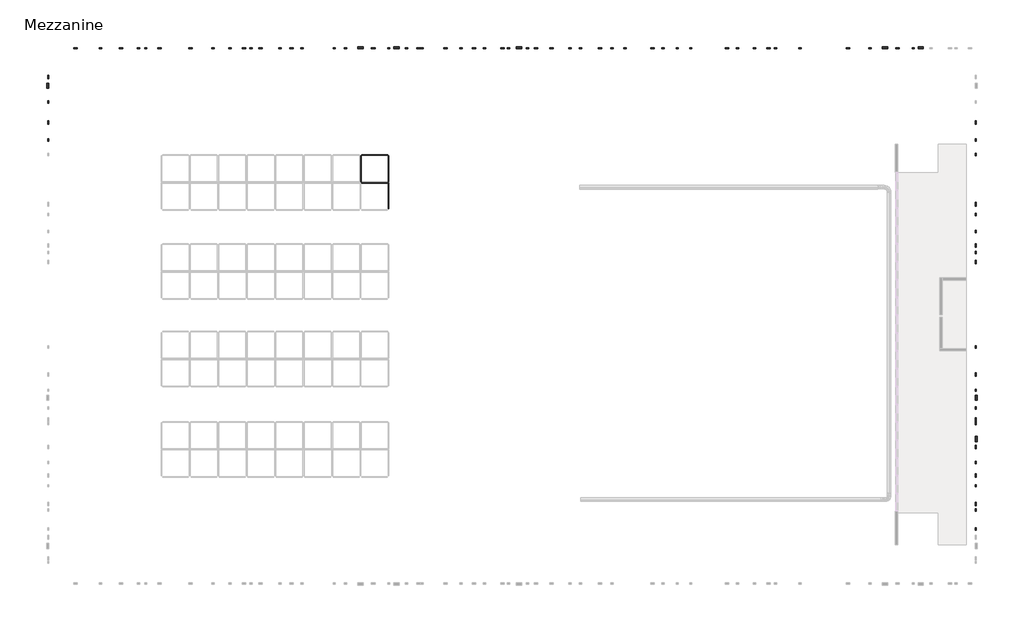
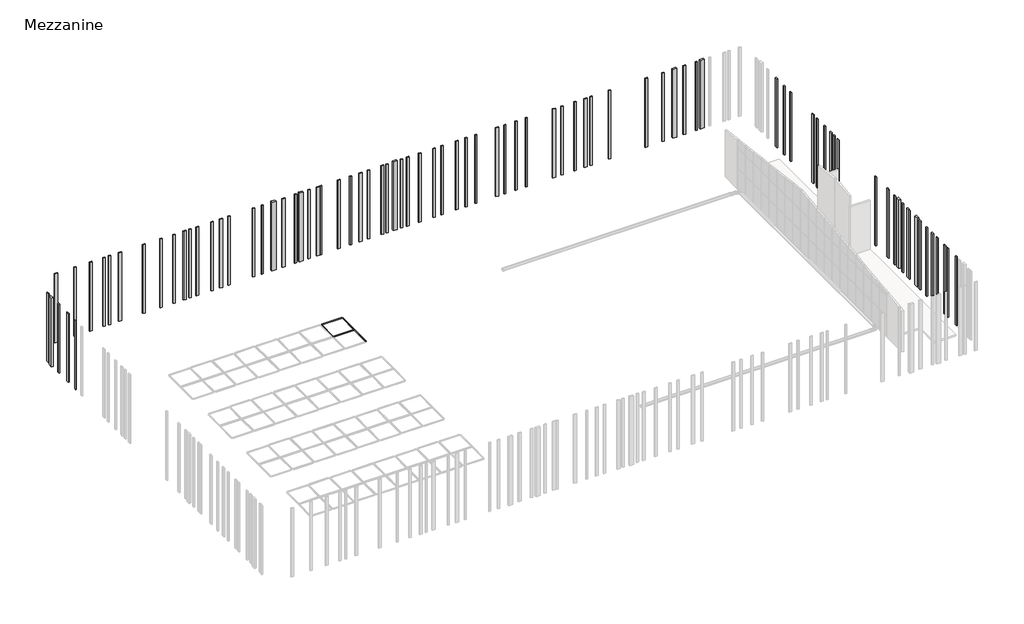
# One storey, part 6 of 7: 84 columns, 5 beams.
"""IFC4 building model written with IfcOpenShell, lengths in millimetres."""

from ifc_helpers import new_model, si_unit, frame, origin, place, context, project, spatial, polyline, outline, extrude, transform, mapped, element, save
from components import timber_gauged_nz_100_x_50_718b6390, timber_gauged_nz_100_x_50_7774ab14, timber_gauged_nz_100_x_50_7b7bee40, timber_gauged_nz_100_x_50_6be5a70a, columns_rectangular_200x200_white_30d1f7a3, columns_rectangular_300x300_8a979122, columns_rectangular_450x450mm_b98eb1ea

model = new_model("IFC4")

# Units and contexts
model_context = context("Model", 3, world=origin())
ifc_project = project(units=[si_unit("LENGTHUNIT", "METRE", prefix="MILLI")], contexts=[model_context])

# Site, building, storey
site = spatial("IfcSite", under=ifc_project)
building = spatial("IfcBuilding", under=site)
storey = spatial("IfcBuildingStorey", under=building, Name="Mezzanine", Elevation=5800.0)

# Beams
placement = place(None, origin())
timber_gauged_nz_100_x_50_shape = timber_gauged_nz_100_x_50_718b6390(model_context)
element("IfcBeam", 1, ObjectType="Timber Gauged (NZ) : 100 x 50", at=placement, inside=storey, context=model_context, shape_type="MappedRepresentation", body=[
    mapped(timber_gauged_nz_100_x_50_shape, transform((-62791.8056755, -2682.1175809, 4853.0), x_axis=(-1.0, 0.0, 0.0), y_axis=(0.0, -1.0, 0.0), z_axis=(0.0, 0.0, 1.0))),
])
timber_gauged_nz_100_x_50_2_shape = timber_gauged_nz_100_x_50_7774ab14(model_context)
element("IfcBeam", 2, ObjectType="Timber Gauged (NZ) : 100 x 50", at=placement, inside=storey, context=model_context, shape_type="MappedRepresentation", body=[
    mapped(timber_gauged_nz_100_x_50_2_shape, transform((-62804.3056755, -329.1175809, 4853.0), x_axis=(-1.0, 0.0, 0.0), y_axis=(0.0, -1.0, 0.0), z_axis=(0.0, 0.0, 1.0))),
])
timber_gauged_nz_100_x_50_3_shape = timber_gauged_nz_100_x_50_7b7bee40(model_context)
element("IfcBeam", 3, ObjectType="Timber Gauged (NZ) : 100 x 50", at=placement, inside=storey, context=model_context, shape_type="MappedRepresentation", body=[
    mapped(timber_gauged_nz_100_x_50_3_shape, transform((-61623.1556755, -1449.1175809, 4853.0), x_axis=(0.0, 1.0, 0.0), y_axis=(-1.0, 0.0, 0.0), z_axis=(0.0, 0.0, 1.0))),
])
timber_gauged_nz_100_x_50_4_shape = timber_gauged_nz_100_x_50_6be5a70a(model_context)
element("IfcBeam", 4, ObjectType="Timber Gauged (NZ) : 100 x 50", at=placement, inside=storey, context=model_context, shape_type="MappedRepresentation", body=[
    mapped(timber_gauged_nz_100_x_50_4_shape, transform((-61634.4556755, -3764.7011548, 4853.0), x_axis=(0.0, -1.0, 0.0), y_axis=(1.0, 0.0, 0.0), z_axis=(0.0, 0.0, 1.0))),
])
element("IfcBeam", 5, ObjectType="Timber Gauged (NZ) : 100 x 50", at=placement, inside=storey, context=model_context, shape_type="MappedRepresentation", body=[
    mapped(timber_gauged_nz_100_x_50_4_shape, transform((-63976.1556755, -1529.3175809, 4853.0), x_axis=(0.0, 1.0, 0.0), y_axis=(-1.0, 0.0, 0.0), z_axis=(0.0, 0.0, 1.0))),
])

# Columns
element("IfcColumn", 6, ObjectType="Columns_Rectangular : 200x200", at=placement, inside=storey, context=model_context, shape_type="SweptSolid", body=[
    extrude(outline(polyline([(-90259.8408447, 1031.5800404), (-90259.8408447, 831.5800404), (-90359.8408447, 831.5800404), (-90359.8408447, 1031.5800404), (-90259.8408447, 1031.5800404)])), frame((0.0, 0.0, 5800.0), z_axis=(0.0, 0.0, 1.0), x_axis=(1.0, 0.0, 0.0)), (0.0, 0.0, 1.0), 8000.0),
])
element("IfcColumn", 7, ObjectType="Columns_Rectangular : 200x200", at=placement, inside=storey, context=model_context, shape_type="SweptSolid", body=[
    extrude(outline(polyline([(-90259.8408447, 4231.5800404), (-90259.8408447, 4031.5800404), (-90359.8408447, 4031.5800404), (-90359.8408447, 4231.5800404), (-90259.8408447, 4231.5800404)])), frame((0.0, 0.0, 5800.0), z_axis=(0.0, 0.0, 1.0), x_axis=(1.0, 0.0, 0.0)), (0.0, 0.0, 1.0), 8000.0),
])
element("IfcColumn", 8, ObjectType="Columns_Rectangular : 200x200", at=placement, inside=storey, context=model_context, shape_type="SweptSolid", body=[
    extrude(outline(polyline([(-12200.7705062, -20068.4199596), (-12100.7705062, -20068.4199596), (-12100.7705062, -20268.4199596), (-12200.7705062, -20268.4199596), (-12200.7705062, -20068.4199596)])), frame((0.0, 0.0, 5800.0), z_axis=(0.0, 0.0, 1.0), x_axis=(1.0, 0.0, 0.0)), (0.0, 0.0, 1.0), 8000.0),
])
element("IfcColumn", 9, ObjectType="Columns_Rectangular : 200x200", at=placement, inside=storey, context=model_context, shape_type="SweptSolid", body=[
    extrude(outline(polyline([(-12200.7705062, -21568.4199596), (-12100.7705062, -21568.4199596), (-12100.7705062, -21768.4199596), (-12200.7705062, -21768.4199596), (-12200.7705062, -21568.4199596)])), frame((0.0, 0.0, 5800.0), z_axis=(0.0, 0.0, 1.0), x_axis=(1.0, 0.0, 0.0)), (0.0, 0.0, 1.0), 8000.0),
])
element("IfcColumn", 10, ObjectType="Columns_Rectangular : 200x200", at=placement, inside=storey, context=model_context, shape_type="SweptSolid", body=[
    extrude(outline(polyline([(-12200.7705062, -22868.4199596), (-12100.7705062, -22868.4199596), (-12100.7705062, -23068.4199596), (-12200.7705062, -23068.4199596), (-12200.7705062, -22868.4199596)])), frame((0.0, 0.0, 5800.0), z_axis=(0.0, 0.0, 1.0), x_axis=(1.0, 0.0, 0.0)), (0.0, 0.0, 1.0), 8000.0),
])
element("IfcColumn", 11, ObjectType="Columns_Rectangular : 200x200", at=placement, inside=storey, context=model_context, shape_type="SweptSolid", body=[
    extrude(outline(polyline([(-12200.7705062, -26168.4199596), (-12100.7705062, -26168.4199596), (-12100.7705062, -26368.4199596), (-12200.7705062, -26368.4199596), (-12200.7705062, -26168.4199596)])), frame((0.0, 0.0, 5800.0), z_axis=(0.0, 0.0, 1.0), x_axis=(1.0, 0.0, 0.0)), (0.0, 0.0, 1.0), 8000.0),
])
element("IfcColumn", 12, ObjectType="Columns_Rectangular : 200x200", at=placement, inside=storey, context=model_context, shape_type="SweptSolid", body=[
    extrude(outline(polyline([(-12200.7705062, -30168.4199596), (-12100.7705062, -30168.4199596), (-12100.7705062, -30368.4199596), (-12200.7705062, -30368.4199596), (-12200.7705062, -30168.4199596)])), frame((0.0, 0.0, 5800.0), z_axis=(0.0, 0.0, 1.0), x_axis=(1.0, 0.0, 0.0)), (0.0, 0.0, 1.0), 8000.0),
])
element("IfcColumn", 13, ObjectType="Columns_Rectangular : 200x200", at=placement, inside=storey, context=model_context, shape_type="SweptSolid", body=[
    extrude(outline(polyline([(-12200.7705062, -31768.4199596), (-12100.7705062, -31768.4199596), (-12100.7705062, -31968.4199596), (-12200.7705062, -31968.4199596), (-12200.7705062, -31768.4199596)])), frame((0.0, 0.0, 5800.0), z_axis=(0.0, 0.0, 1.0), x_axis=(1.0, 0.0, 0.0)), (0.0, 0.0, 1.0), 8000.0),
])
element("IfcColumn", 14, ObjectType="Columns_Rectangular : 200x200", at=placement, inside=storey, context=model_context, shape_type="SweptSolid", body=[
    extrude(outline(polyline([(-12200.7705062, -8468.4199596), (-12100.7705062, -8468.4199596), (-12100.7705062, -8668.4199596), (-12200.7705062, -8668.4199596), (-12200.7705062, -8468.4199596)])), frame((0.0, 0.0, 5800.0), z_axis=(0.0, 0.0, 1.0), x_axis=(1.0, 0.0, 0.0)), (0.0, 0.0, 1.0), 8000.0),
])
element("IfcColumn", 15, ObjectType="Columns_Rectangular : 200x200", at=placement, inside=storey, context=model_context, shape_type="SweptSolid", body=[
    extrude(outline(polyline([(-12200.7705062, -5268.4199596), (-12100.7705062, -5268.4199596), (-12100.7705062, -5468.4199596), (-12200.7705062, -5468.4199596), (-12200.7705062, -5268.4199596)])), frame((0.0, 0.0, 5800.0), z_axis=(0.0, 0.0, 1.0), x_axis=(1.0, 0.0, 0.0)), (0.0, 0.0, 1.0), 8000.0),
])
element("IfcColumn", 16, ObjectType="Columns_Rectangular : 200x200", at=placement, inside=storey, context=model_context, shape_type="SweptSolid", body=[
    extrude(outline(polyline([(-12200.7705062, 1031.5800404), (-12100.7705062, 1031.5800404), (-12100.7705062, 831.5800404), (-12200.7705062, 831.5800404), (-12200.7705062, 1031.5800404)])), frame((0.0, 0.0, 5800.0), z_axis=(0.0, 0.0, 1.0), x_axis=(1.0, 0.0, 0.0)), (0.0, 0.0, 1.0), 8000.0),
])
element("IfcColumn", 17, ObjectType="Columns_Rectangular : 200x200", at=placement, inside=storey, context=model_context, shape_type="SweptSolid", body=[
    extrude(outline(polyline([(-61716.5322209, 8594.0823011), (-61716.5322209, 8694.0823011), (-61516.5322209, 8694.0823011), (-61516.5322209, 8594.0823011), (-61716.5322209, 8594.0823011)])), frame((0.0, 0.0, 5800.0), z_axis=(0.0, 0.0, 1.0), x_axis=(1.0, 0.0, 0.0)), (0.0, 0.0, 1.0), 8000.0),
])
element("IfcColumn", 18, ObjectType="Columns_Rectangular : 200x200", at=placement, inside=storey, context=model_context, shape_type="SweptSolid", body=[
    extrude(outline(polyline([(-60216.5322209, 8594.0823011), (-60216.5322209, 8694.0823011), (-60016.5322209, 8694.0823011), (-60016.5322209, 8594.0823011), (-60216.5322209, 8594.0823011)])), frame((0.0, 0.0, 5800.0), z_axis=(0.0, 0.0, 1.0), x_axis=(1.0, 0.0, 0.0)), (0.0, 0.0, 1.0), 8000.0),
])
element("IfcColumn", 19, ObjectType="Columns_Rectangular : 200x200", at=placement, inside=storey, context=model_context, shape_type="SweptSolid", body=[
    extrude(outline(polyline([(-58916.5322209, 8594.0823011), (-58916.5322209, 8694.0823011), (-58716.5322209, 8694.0823011), (-58716.5322209, 8594.0823011), (-58916.5322209, 8594.0823011)])), frame((0.0, 0.0, 5800.0), z_axis=(0.0, 0.0, 1.0), x_axis=(1.0, 0.0, 0.0)), (0.0, 0.0, 1.0), 8000.0),
])
element("IfcColumn", 20, ObjectType="Columns_Rectangular : 200x200", at=placement, inside=storey, context=model_context, shape_type="SweptSolid", body=[
    extrude(outline(polyline([(-55616.5322209, 8594.0823011), (-55616.5322209, 8694.0823011), (-55416.5322209, 8694.0823011), (-55416.5322209, 8594.0823011), (-55616.5322209, 8594.0823011)])), frame((0.0, 0.0, 5800.0), z_axis=(0.0, 0.0, 1.0), x_axis=(1.0, 0.0, 0.0)), (0.0, 0.0, 1.0), 8000.0),
])
element("IfcColumn", 21, ObjectType="Columns_Rectangular : 200x200", at=placement, inside=storey, context=model_context, shape_type="SweptSolid", body=[
    extrude(outline(polyline([(-51616.5322209, 8594.0823011), (-51616.5322209, 8694.0823011), (-51416.5322209, 8694.0823011), (-51416.5322209, 8594.0823011), (-51616.5322209, 8594.0823011)])), frame((0.0, 0.0, 5800.0), z_axis=(0.0, 0.0, 1.0), x_axis=(1.0, 0.0, 0.0)), (0.0, 0.0, 1.0), 8000.0),
])
element("IfcColumn", 22, ObjectType="Columns_Rectangular : 200x200", at=placement, inside=storey, context=model_context, shape_type="SweptSolid", body=[
    extrude(outline(polyline([(-50016.5322209, 8594.0823011), (-50016.5322209, 8694.0823011), (-49816.5322209, 8694.0823011), (-49816.5322209, 8594.0823011), (-50016.5322209, 8594.0823011)])), frame((0.0, 0.0, 5800.0), z_axis=(0.0, 0.0, 1.0), x_axis=(1.0, 0.0, 0.0)), (0.0, 0.0, 1.0), 8000.0),
])
element("IfcColumn", 23, ObjectType="Columns_Rectangular : 200x200", at=placement, inside=storey, context=model_context, shape_type="SweptSolid", body=[
    extrude(outline(polyline([(-46430.3056755, 8594.0823011), (-46430.3056755, 8694.0823011), (-46230.3056755, 8694.0823011), (-46230.3056755, 8594.0823011), (-46430.3056755, 8594.0823011)])), frame((0.0, 0.0, 5800.0), z_axis=(0.0, 0.0, 1.0), x_axis=(1.0, 0.0, 0.0)), (0.0, 0.0, 1.0), 8000.0),
])
element("IfcColumn", 24, ObjectType="Columns_Rectangular : 200x200", at=placement, inside=storey, context=model_context, shape_type="SweptSolid", body=[
    extrude(outline(polyline([(-73316.5322209, 8594.0823011), (-73316.5322209, 8694.0823011), (-73116.5322209, 8694.0823011), (-73116.5322209, 8594.0823011), (-73316.5322209, 8594.0823011)])), frame((0.0, 0.0, 5800.0), z_axis=(0.0, 0.0, 1.0), x_axis=(1.0, 0.0, 0.0)), (0.0, 0.0, 1.0), 8000.0),
])
element("IfcColumn", 25, ObjectType="Columns_Rectangular : 200x200", at=placement, inside=storey, context=model_context, shape_type="SweptSolid", body=[
    extrude(outline(polyline([(-76516.5322209, 8594.0823011), (-76516.5322209, 8694.0823011), (-76316.5322209, 8694.0823011), (-76316.5322209, 8594.0823011), (-76516.5322209, 8594.0823011)])), frame((0.0, 0.0, 5800.0), z_axis=(0.0, 0.0, 1.0), x_axis=(1.0, 0.0, 0.0)), (0.0, 0.0, 1.0), 8000.0),
])
element("IfcColumn", 26, ObjectType="Columns_Rectangular : 200x200", at=placement, inside=storey, context=model_context, shape_type="SweptSolid", body=[
    extrude(outline(polyline([(-82816.5322209, 8594.0823011), (-82816.5322209, 8694.0823011), (-82616.5322209, 8694.0823011), (-82616.5322209, 8594.0823011), (-82816.5322209, 8594.0823011)])), frame((0.0, 0.0, 5800.0), z_axis=(0.0, 0.0, 1.0), x_axis=(1.0, 0.0, 0.0)), (0.0, 0.0, 1.0), 8000.0),
])
element("IfcColumn", 27, ObjectType="Columns_Rectangular : 200x200", at=placement, inside=storey, context=model_context, shape_type="SweptSolid", body=[
    extrude(outline(polyline([(-86016.5322209, 8594.0823011), (-86016.5322209, 8694.0823011), (-85816.5322209, 8694.0823011), (-85816.5322209, 8594.0823011), (-86016.5322209, 8594.0823011)])), frame((0.0, 0.0, 5800.0), z_axis=(0.0, 0.0, 1.0), x_axis=(1.0, 0.0, 0.0)), (0.0, 0.0, 1.0), 8000.0),
])
element("IfcColumn", 28, ObjectType="Columns_Rectangular : 200x200", at=placement, inside=storey, context=model_context, shape_type="SweptSolid", body=[
    extrude(outline(polyline([(-69016.5322209, 8594.0823011), (-69016.5322209, 8694.0823011), (-68816.5322209, 8694.0823011), (-68816.5322209, 8594.0823011), (-69016.5322209, 8594.0823011)])), frame((0.0, 0.0, 5800.0), z_axis=(0.0, 0.0, 1.0), x_axis=(1.0, 0.0, 0.0)), (0.0, 0.0, 1.0), 8000.0),
])
element("IfcColumn", 29, ObjectType="Columns_Rectangular : 200x200", at=placement, inside=storey, context=model_context, shape_type="SweptSolid", body=[
    extrude(outline(polyline([(-66316.5322209, 8594.0823011), (-66316.5322209, 8694.0823011), (-66116.5322209, 8694.0823011), (-66116.5322209, 8594.0823011), (-66316.5322209, 8594.0823011)])), frame((0.0, 0.0, 5800.0), z_axis=(0.0, 0.0, 1.0), x_axis=(1.0, 0.0, 0.0)), (0.0, 0.0, 1.0), 8000.0),
])
element("IfcColumn", 30, ObjectType="Columns_Rectangular : 200x200", at=placement, inside=storey, context=model_context, shape_type="SweptSolid", body=[
    extrude(outline(polyline([(-42916.5322209, 8594.0800404), (-42916.5322209, 8694.0800404), (-42716.5322209, 8694.0800404), (-42716.5322209, 8594.0800404), (-42916.5322209, 8594.0800404)])), frame((0.0, 0.0, 5800.0), z_axis=(0.0, 0.0, 1.0), x_axis=(1.0, 0.0, 0.0)), (0.0, 0.0, 1.0), 8000.0),
])
columns_rectangular_200x200_white_shape = columns_rectangular_200x200_white_30d1f7a3(model_context)
element("IfcColumn", 31, ObjectType="Columns_Rectangular : 200x200", at=placement, inside=storey, context=model_context, shape_type="MappedRepresentation", body=[
    mapped(columns_rectangular_200x200_white_shape, transform((-17416.5322209, 8646.9943842, 0.0), x_axis=(0.0, -1.0, 0.0), y_axis=(1.0, 0.0, 0.0), z_axis=(0.0, 0.0, 1.0))),
])
element("IfcColumn", 32, ObjectType="Columns_Rectangular : 200x200", at=placement, inside=storey, context=model_context, shape_type="MappedRepresentation", body=[
    mapped(columns_rectangular_200x200_white_shape, transform((-29016.5322209, 8646.9943842, 0.0), x_axis=(0.0, -1.0, 0.0), y_axis=(1.0, 0.0, 0.0), z_axis=(0.0, 0.0, 1.0))),
])
element("IfcColumn", 33, ObjectType="Columns_Rectangular : 200x200", at=placement, inside=storey, context=model_context, shape_type="MappedRepresentation", body=[
    mapped(columns_rectangular_200x200_white_shape, transform((-32216.5322209, 8646.9943842, 0.0), x_axis=(0.0, -1.0, 0.0), y_axis=(1.0, 0.0, 0.0), z_axis=(0.0, 0.0, 1.0))),
])
element("IfcColumn", 34, ObjectType="Columns_Rectangular : 200x200", at=placement, inside=storey, context=model_context, shape_type="MappedRepresentation", body=[
    mapped(columns_rectangular_200x200_white_shape, transform((-38516.5322209, 8646.9943842, 0.0), x_axis=(0.0, -1.0, 0.0), y_axis=(1.0, 0.0, 0.0), z_axis=(0.0, 0.0, 1.0))),
])
element("IfcColumn", 35, ObjectType="Columns_Rectangular : 200x200", at=placement, inside=storey, context=model_context, shape_type="MappedRepresentation", body=[
    mapped(columns_rectangular_200x200_white_shape, transform((-41716.5322209, 8646.9943842, 0.0), x_axis=(0.0, -1.0, 0.0), y_axis=(1.0, 0.0, 0.0), z_axis=(0.0, 0.0, 1.0))),
])
element("IfcColumn", 36, ObjectType="Columns_Rectangular : 200x200 white", at=placement, inside=storey, context=model_context, shape_type="SweptSolid", body=[
    extrude(outline(polyline([(-12200.7705062, -16422.034888), (-12100.7705062, -16422.034888), (-12100.7705062, -16622.034888), (-12200.7705062, -16622.034888), (-12200.7705062, -16422.034888)])), frame((0.0, 0.0, 5800.0), z_axis=(0.0, 0.0, 1.0), x_axis=(1.0, 0.0, 0.0)), (0.0, 0.0, 1.0), 8000.0),
])
element("IfcColumn", 37, ObjectType="Columns_Rectangular : 200x200 white", at=placement, inside=storey, context=model_context, shape_type="SweptSolid", body=[
    extrude(outline(polyline([(-12200.7705062, -187.0510337), (-12100.7705062, -187.0510337), (-12100.7705062, -387.0510337), (-12200.7705062, -387.0510337), (-12200.7705062, -187.0510337)])), frame((0.0, 0.0, 5800.0), z_axis=(0.0, 0.0, 1.0), x_axis=(1.0, 0.0, 0.0)), (0.0, 0.0, 1.0), 8000.0),
])
element("IfcColumn", 38, ObjectType="Columns_Rectangular : 200x200 white", at=placement, inside=storey, context=model_context, shape_type="SweptSolid", body=[
    extrude(outline(polyline([(-12200.7705062, -6686.9544038), (-12100.7705062, -6686.9544038), (-12100.7705062, -6886.9544038), (-12200.7705062, -6886.9544038), (-12200.7705062, -6686.9544038)])), frame((0.0, 0.0, 5800.0), z_axis=(0.0, 0.0, 1.0), x_axis=(1.0, 0.0, 0.0)), (0.0, 0.0, 1.0), 8000.0),
])
element("IfcColumn", 39, ObjectType="Columns_Rectangular : 200x200 white", at=placement, inside=storey, context=model_context, shape_type="SweptSolid", body=[
    extrude(outline(polyline([(-12200.7705062, -28124.5746681), (-12100.7705062, -28124.5746681), (-12100.7705062, -28324.5746681), (-12200.7705062, -28324.5746681), (-12200.7705062, -28124.5746681)])), frame((0.0, 0.0, 5800.0), z_axis=(0.0, 0.0, 1.0), x_axis=(1.0, 0.0, 0.0)), (0.0, 0.0, 1.0), 8000.0),
])
element("IfcColumn", 40, ObjectType="Columns_Rectangular : 200x200 white", at=placement, inside=storey, context=model_context, shape_type="SweptSolid", body=[
    extrude(outline(polyline([(-65362.9172925, 8594.0823011), (-65362.9172925, 8694.0823011), (-65162.9172925, 8694.0823011), (-65162.9172925, 8594.0823011), (-65362.9172925, 8594.0823011)])), frame((0.0, 0.0, 5800.0), z_axis=(0.0, 0.0, 1.0), x_axis=(1.0, 0.0, 0.0)), (0.0, 0.0, 1.0), 8000.0),
])
element("IfcColumn", 41, ObjectType="Columns_Rectangular : 200x200 white", at=placement, inside=storey, context=model_context, shape_type="SweptSolid", body=[
    extrude(outline(polyline([(-82197.9011468, 8594.0823011), (-82197.9011468, 8694.0823011), (-81997.9011468, 8694.0823011), (-81997.9011468, 8594.0823011), (-82197.9011468, 8594.0823011)])), frame((0.0, 0.0, 5800.0), z_axis=(0.0, 0.0, 1.0), x_axis=(1.0, 0.0, 0.0)), (0.0, 0.0, 1.0), 8000.0),
])
element("IfcColumn", 42, ObjectType="Columns_Rectangular : 200x200 white", at=placement, inside=storey, context=model_context, shape_type="SweptSolid", body=[
    extrude(outline(polyline([(-75097.9977767, 8594.0823011), (-75097.9977767, 8694.0823011), (-74897.9977767, 8694.0823011), (-74897.9977767, 8594.0823011), (-75097.9977767, 8594.0823011)])), frame((0.0, 0.0, 5800.0), z_axis=(0.0, 0.0, 1.0), x_axis=(1.0, 0.0, 0.0)), (0.0, 0.0, 1.0), 8000.0),
])
element("IfcColumn", 43, ObjectType="Columns_Rectangular : 200x200 white", at=placement, inside=storey, context=model_context, shape_type="SweptSolid", body=[
    extrude(outline(polyline([(-53660.3775124, 8594.0823011), (-53660.3775124, 8694.0823011), (-53460.3775124, 8694.0823011), (-53460.3775124, 8594.0823011), (-53660.3775124, 8594.0823011)])), frame((0.0, 0.0, 5800.0), z_axis=(0.0, 0.0, 1.0), x_axis=(1.0, 0.0, 0.0)), (0.0, 0.0, 1.0), 8000.0),
])
element("IfcColumn", 44, ObjectType="Columns_Rectangular : 200x200 white", at=placement, inside=storey, context=model_context, shape_type="SweptSolid", body=[
    extrude(outline(polyline([(-70895.3056755, 8594.0823011), (-70895.3056755, 8694.0823011), (-70695.3056755, 8694.0823011), (-70695.3056755, 8594.0823011), (-70895.3056755, 8594.0823011)])), frame((0.0, 0.0, 5800.0), z_axis=(0.0, 0.0, 1.0), x_axis=(1.0, 0.0, 0.0)), (0.0, 0.0, 1.0), 8000.0),
])
element("IfcColumn", 45, ObjectType="Columns_Rectangular : 200x200 white", at=placement, inside=storey, context=model_context, shape_type="SweptSolid", body=[
    extrude(outline(polyline([(-45559.8408447, 8594.0800404), (-45559.8408447, 8694.0800404), (-45359.8408447, 8694.0800404), (-45359.8408447, 8594.0800404), (-45559.8408447, 8594.0800404)])), frame((0.0, 0.0, 5800.0), z_axis=(0.0, 0.0, 1.0), x_axis=(1.0, 0.0, 0.0)), (0.0, 0.0, 1.0), 8000.0),
])
element("IfcColumn", 46, ObjectType="Columns_Rectangular : 200x200 white", at=placement, inside=storey, context=model_context, shape_type="MappedRepresentation", body=[
    mapped(columns_rectangular_200x200_white_shape, transform((-21062.9172925, 8646.9943842, 0.0), x_axis=(0.0, -1.0, 0.0), y_axis=(1.0, 0.0, 0.0), z_axis=(0.0, 0.0, 1.0))),
])
element("IfcColumn", 47, ObjectType="Columns_Rectangular : 200x200 white", at=placement, inside=storey, context=model_context, shape_type="MappedRepresentation", body=[
    mapped(columns_rectangular_200x200_white_shape, transform((-36162.6705145, 8644.7755813, 0.0), x_axis=(0.0, -1.0, 0.0), y_axis=(1.0, 0.0, 0.0), z_axis=(0.0, 0.0, 1.0))),
])
element("IfcColumn", 48, ObjectType="Columns_Rectangular : 200x200 white", at=placement, inside=storey, context=model_context, shape_type="MappedRepresentation", body=[
    mapped(columns_rectangular_200x200_white_shape, transform((-37297.9011468, 8646.9943842, 0.0), x_axis=(0.0, -1.0, 0.0), y_axis=(1.0, 0.0, 0.0), z_axis=(0.0, 0.0, 1.0))),
])
element("IfcColumn", 49, ObjectType="Columns_Rectangular : 200x200 white", at=placement, inside=storey, context=model_context, shape_type="MappedRepresentation", body=[
    mapped(columns_rectangular_200x200_white_shape, transform((-30797.9977767, 8646.9943842, 0.0), x_axis=(0.0, -1.0, 0.0), y_axis=(1.0, 0.0, 0.0), z_axis=(0.0, 0.0, 1.0))),
])
element("IfcColumn", 50, ObjectType="Columns_Rectangular : 200x200 white", at=placement, inside=storey, context=model_context, shape_type="MappedRepresentation", body=[
    mapped(columns_rectangular_200x200_white_shape, transform((-26960.9339353, 8646.9943842, 0.0), x_axis=(0.0, -1.0, 0.0), y_axis=(1.0, 0.0, 0.0), z_axis=(0.0, 0.0, 1.0))),
])
element("IfcColumn", 51, ObjectType="Columns_Rectangular : 300x300", at=placement, inside=storey, context=model_context, shape_type="SweptSolid", body=[
    extrude(outline(polyline([(-90259.8408447, 2549.7769057), (-90259.8408447, 2249.7769057), (-90359.8408447, 2249.7769057), (-90359.8408447, 2549.7769057), (-90259.8408447, 2549.7769057)])), frame((0.0, 0.0, 5800.0), z_axis=(0.0, 0.0, 1.0), x_axis=(1.0, 0.0, 0.0)), (0.0, 0.0, 1.0), 8000.0),
])
element("IfcColumn", 52, ObjectType="Columns_Rectangular : 300x300", at=placement, inside=storey, context=model_context, shape_type="SweptSolid", body=[
    extrude(outline(polyline([(-90259.8408447, 6372.2531539), (-90259.8408447, 6072.2531539), (-90359.8408447, 6072.2531539), (-90359.8408447, 6372.2531539), (-90259.8408447, 6372.2531539)])), frame((0.0, 0.0, 5800.0), z_axis=(0.0, 0.0, 1.0), x_axis=(1.0, 0.0, 0.0)), (0.0, 0.0, 1.0), 8000.0),
])
element("IfcColumn", 53, ObjectType="Columns_Rectangular : 300x300", at=placement, inside=storey, context=model_context, shape_type="SweptSolid", body=[
    extrude(outline(polyline([(-12200.7705062, -18708.892235), (-12100.7705062, -18708.892235), (-12100.7705062, -19008.892235), (-12200.7705062, -19008.892235), (-12200.7705062, -18708.892235)])), frame((0.0, 0.0, 5800.0), z_axis=(0.0, 0.0, 1.0), x_axis=(1.0, 0.0, 0.0)), (0.0, 0.0, 1.0), 8000.0),
])
element("IfcColumn", 54, ObjectType="Columns_Rectangular : 300x300", at=placement, inside=storey, context=model_context, shape_type="SweptSolid", body=[
    extrude(outline(polyline([(-12200.7705062, -22508.892235), (-12100.7705062, -22508.892235), (-12100.7705062, -22808.892235), (-12200.7705062, -22808.892235), (-12200.7705062, -22508.892235)])), frame((0.0, 0.0, 5800.0), z_axis=(0.0, 0.0, 1.0), x_axis=(1.0, 0.0, 0.0)), (0.0, 0.0, 1.0), 8000.0),
])
element("IfcColumn", 55, ObjectType="Columns_Rectangular : 300x300", at=placement, inside=storey, context=model_context, shape_type="SweptSolid", body=[
    extrude(outline(polyline([(-12200.7705062, -24808.892235), (-12100.7705062, -24808.892235), (-12100.7705062, -25108.892235), (-12200.7705062, -25108.892235), (-12200.7705062, -24808.892235)])), frame((0.0, 0.0, 5800.0), z_axis=(0.0, 0.0, 1.0), x_axis=(1.0, 0.0, 0.0)), (0.0, 0.0, 1.0), 8000.0),
])
element("IfcColumn", 56, ObjectType="Columns_Rectangular : 300x300", at=placement, inside=storey, context=model_context, shape_type="SweptSolid", body=[
    extrude(outline(polyline([(-12200.7705062, -27208.892235), (-12100.7705062, -27208.892235), (-12100.7705062, -27508.892235), (-12200.7705062, -27508.892235), (-12200.7705062, -27208.892235)])), frame((0.0, 0.0, 5800.0), z_axis=(0.0, 0.0, 1.0), x_axis=(1.0, 0.0, 0.0)), (0.0, 0.0, 1.0), 8000.0),
])
element("IfcColumn", 57, ObjectType="Columns_Rectangular : 300x300", at=placement, inside=storey, context=model_context, shape_type="SweptSolid", body=[
    extrude(outline(polyline([(-12200.7705062, -29608.892235), (-12100.7705062, -29608.892235), (-12100.7705062, -29908.892235), (-12200.7705062, -29908.892235), (-12200.7705062, -29608.892235)])), frame((0.0, 0.0, 5800.0), z_axis=(0.0, 0.0, 1.0), x_axis=(1.0, 0.0, 0.0)), (0.0, 0.0, 1.0), 8000.0),
])
element("IfcColumn", 58, ObjectType="Columns_Rectangular : 300x300", at=placement, inside=storey, context=model_context, shape_type="SweptSolid", body=[
    extrude(outline(polyline([(-12200.7705062, -9208.892235), (-12100.7705062, -9208.892235), (-12100.7705062, -9508.892235), (-12200.7705062, -9508.892235), (-12200.7705062, -9208.892235)])), frame((0.0, 0.0, 5800.0), z_axis=(0.0, 0.0, 1.0), x_axis=(1.0, 0.0, 0.0)), (0.0, 0.0, 1.0), 8000.0),
])
element("IfcColumn", 59, ObjectType="Columns_Rectangular : 300x300", at=placement, inside=storey, context=model_context, shape_type="SweptSolid", body=[
    extrude(outline(polyline([(-12200.7705062, -7808.892235), (-12100.7705062, -7808.892235), (-12100.7705062, -8108.892235), (-12200.7705062, -8108.892235), (-12200.7705062, -7808.892235)])), frame((0.0, 0.0, 5800.0), z_axis=(0.0, 0.0, 1.0), x_axis=(1.0, 0.0, 0.0)), (0.0, 0.0, 1.0), 8000.0),
])
element("IfcColumn", 60, ObjectType="Columns_Rectangular : 300x300", at=placement, inside=storey, context=model_context, shape_type="SweptSolid", body=[
    extrude(outline(polyline([(-12200.7705062, -4343.4199596), (-12100.7705062, -4343.4199596), (-12100.7705062, -4643.4199596), (-12200.7705062, -4643.4199596), (-12200.7705062, -4343.4199596)])), frame((0.0, 0.0, 5800.0), z_axis=(0.0, 0.0, 1.0), x_axis=(1.0, 0.0, 0.0)), (0.0, 0.0, 1.0), 8000.0),
])
element("IfcColumn", 61, ObjectType="Columns_Rectangular : 300x300", at=placement, inside=storey, context=model_context, shape_type="SweptSolid", body=[
    extrude(outline(polyline([(-12200.7705062, 2549.7769057), (-12100.7705062, 2549.7769057), (-12100.7705062, 2249.7769057), (-12200.7705062, 2249.7769057), (-12200.7705062, 2549.7769057)])), frame((0.0, 0.0, 5800.0), z_axis=(0.0, 0.0, 1.0), x_axis=(1.0, 0.0, 0.0)), (0.0, 0.0, 1.0), 8000.0),
])
element("IfcColumn", 62, ObjectType="Columns_Rectangular : 300x300", at=placement, inside=storey, context=model_context, shape_type="SweptSolid", body=[
    extrude(outline(polyline([(-63076.0599455, 8594.0823011), (-63076.0599455, 8694.0823011), (-62776.0599455, 8694.0823011), (-62776.0599455, 8594.0823011), (-63076.0599455, 8594.0823011)])), frame((0.0, 0.0, 5800.0), z_axis=(0.0, 0.0, 1.0), x_axis=(1.0, 0.0, 0.0)), (0.0, 0.0, 1.0), 8000.0),
])
element("IfcColumn", 63, ObjectType="Columns_Rectangular : 300x300", at=placement, inside=storey, context=model_context, shape_type="SweptSolid", body=[
    extrude(outline(polyline([(-59276.0599455, 8594.0823011), (-59276.0599455, 8694.0823011), (-58976.0599455, 8694.0823011), (-58976.0599455, 8594.0823011), (-59276.0599455, 8594.0823011)])), frame((0.0, 0.0, 5800.0), z_axis=(0.0, 0.0, 1.0), x_axis=(1.0, 0.0, 0.0)), (0.0, 0.0, 1.0), 8000.0),
])
element("IfcColumn", 64, ObjectType="Columns_Rectangular : 300x300", at=placement, inside=storey, context=model_context, shape_type="SweptSolid", body=[
    extrude(outline(polyline([(-56976.0599455, 8594.0823011), (-56976.0599455, 8694.0823011), (-56676.0599455, 8694.0823011), (-56676.0599455, 8594.0823011), (-56976.0599455, 8594.0823011)])), frame((0.0, 0.0, 5800.0), z_axis=(0.0, 0.0, 1.0), x_axis=(1.0, 0.0, 0.0)), (0.0, 0.0, 1.0), 8000.0),
])
element("IfcColumn", 65, ObjectType="Columns_Rectangular : 300x300", at=placement, inside=storey, context=model_context, shape_type="SweptSolid", body=[
    extrude(outline(polyline([(-54576.0599455, 8594.0823011), (-54576.0599455, 8694.0823011), (-54276.0599455, 8694.0823011), (-54276.0599455, 8594.0823011), (-54576.0599455, 8594.0823011)])), frame((0.0, 0.0, 5800.0), z_axis=(0.0, 0.0, 1.0), x_axis=(1.0, 0.0, 0.0)), (0.0, 0.0, 1.0), 8000.0),
])
element("IfcColumn", 66, ObjectType="Columns_Rectangular : 300x300", at=placement, inside=storey, context=model_context, shape_type="SweptSolid", body=[
    extrude(outline(polyline([(-52176.0599455, 8594.0823011), (-52176.0599455, 8694.0823011), (-51876.0599455, 8694.0823011), (-51876.0599455, 8594.0823011), (-52176.0599455, 8594.0823011)])), frame((0.0, 0.0, 5800.0), z_axis=(0.0, 0.0, 1.0), x_axis=(1.0, 0.0, 0.0)), (0.0, 0.0, 1.0), 8000.0),
])
element("IfcColumn", 67, ObjectType="Columns_Rectangular : 300x300", at=placement, inside=storey, context=model_context, shape_type="SweptSolid", body=[
    extrude(outline(polyline([(-49376.0599455, 8594.0823011), (-49376.0599455, 8694.0823011), (-49076.0599455, 8694.0823011), (-49076.0599455, 8594.0823011), (-49376.0599455, 8594.0823011)])), frame((0.0, 0.0, 5800.0), z_axis=(0.0, 0.0, 1.0), x_axis=(1.0, 0.0, 0.0)), (0.0, 0.0, 1.0), 8000.0),
])
element("IfcColumn", 68, ObjectType="Columns_Rectangular : 300x300", at=placement, inside=storey, context=model_context, shape_type="SweptSolid", body=[
    extrude(outline(polyline([(-48056.0599455, 8594.0823011), (-48056.0599455, 8694.0823011), (-47756.0599455, 8694.0823011), (-47756.0599455, 8594.0823011), (-48056.0599455, 8594.0823011)])), frame((0.0, 0.0, 5800.0), z_axis=(0.0, 0.0, 1.0), x_axis=(1.0, 0.0, 0.0)), (0.0, 0.0, 1.0), 8000.0),
])
element("IfcColumn", 69, ObjectType="Columns_Rectangular : 300x300", at=placement, inside=storey, context=model_context, shape_type="SweptSolid", body=[
    extrude(outline(polyline([(-72576.0599455, 8594.0823011), (-72576.0599455, 8694.0823011), (-72276.0599455, 8694.0823011), (-72276.0599455, 8594.0823011), (-72576.0599455, 8594.0823011)])), frame((0.0, 0.0, 5800.0), z_axis=(0.0, 0.0, 1.0), x_axis=(1.0, 0.0, 0.0)), (0.0, 0.0, 1.0), 8000.0),
])
element("IfcColumn", 70, ObjectType="Columns_Rectangular : 300x300", at=placement, inside=storey, context=model_context, shape_type="SweptSolid", body=[
    extrude(outline(polyline([(-73976.0599455, 8594.0823011), (-73976.0599455, 8694.0823011), (-73676.0599455, 8694.0823011), (-73676.0599455, 8594.0823011), (-73976.0599455, 8594.0823011)])), frame((0.0, 0.0, 5800.0), z_axis=(0.0, 0.0, 1.0), x_axis=(1.0, 0.0, 0.0)), (0.0, 0.0, 1.0), 8000.0),
])
element("IfcColumn", 71, ObjectType="Columns_Rectangular : 300x300", at=placement, inside=storey, context=model_context, shape_type="SweptSolid", body=[
    extrude(outline(polyline([(-78487.3408447, 8594.0823011), (-78487.3408447, 8694.0823011), (-78187.3408447, 8694.0823011), (-78187.3408447, 8594.0823011), (-78487.3408447, 8594.0823011)])), frame((0.0, 0.0, 5800.0), z_axis=(0.0, 0.0, 1.0), x_axis=(1.0, 0.0, 0.0)), (0.0, 0.0, 1.0), 8000.0),
])
element("IfcColumn", 72, ObjectType="Columns_Rectangular : 300x300", at=placement, inside=storey, context=model_context, shape_type="SweptSolid", body=[
    extrude(outline(polyline([(-84334.7290862, 8594.0823011), (-84334.7290862, 8694.0823011), (-84034.7290862, 8694.0823011), (-84034.7290862, 8594.0823011), (-84334.7290862, 8594.0823011)])), frame((0.0, 0.0, 5800.0), z_axis=(0.0, 0.0, 1.0), x_axis=(1.0, 0.0, 0.0)), (0.0, 0.0, 1.0), 8000.0),
])
element("IfcColumn", 73, ObjectType="Columns_Rectangular : 300x300", at=placement, inside=storey, context=model_context, shape_type="SweptSolid", body=[
    extrude(outline(polyline([(-88157.2053344, 8594.0823011), (-88157.2053344, 8694.0823011), (-87857.2053344, 8694.0823011), (-87857.2053344, 8594.0823011), (-88157.2053344, 8594.0823011)])), frame((0.0, 0.0, 5800.0), z_axis=(0.0, 0.0, 1.0), x_axis=(1.0, 0.0, 0.0)), (0.0, 0.0, 1.0), 8000.0),
])
element("IfcColumn", 74, ObjectType="Columns_Rectangular : 300x300", at=placement, inside=storey, context=model_context, shape_type="SweptSolid", body=[
    extrude(outline(polyline([(-69976.0599455, 8594.0823011), (-69976.0599455, 8694.0823011), (-69676.0599455, 8694.0823011), (-69676.0599455, 8594.0823011), (-69976.0599455, 8594.0823011)])), frame((0.0, 0.0, 5800.0), z_axis=(0.0, 0.0, 1.0), x_axis=(1.0, 0.0, 0.0)), (0.0, 0.0, 1.0), 8000.0),
])
element("IfcColumn", 75, ObjectType="Columns_Rectangular : 300x300", at=placement, inside=storey, context=model_context, shape_type="SweptSolid", body=[
    extrude(outline(polyline([(-39534.7290862, 8596.9943842), (-39534.7290862, 8696.9943842), (-39234.7290862, 8696.9943842), (-39234.7290862, 8596.9943842), (-39534.7290862, 8596.9943842)])), frame((0.0, 0.0, 5800.0), z_axis=(0.0, 0.0, 1.0), x_axis=(1.0, 0.0, 0.0)), (0.0, 0.0, 1.0), 8000.0),
])
element("IfcColumn", 76, ObjectType="Columns_Rectangular : 300x300", at=placement, inside=storey, context=model_context, shape_type="SweptSolid", body=[
    extrude(outline(polyline([(-43957.2053344, 8596.9943842), (-43957.2053344, 8696.9943842), (-43657.2053344, 8696.9943842), (-43657.2053344, 8596.9943842), (-43957.2053344, 8596.9943842)])), frame((0.0, 0.0, 5800.0), z_axis=(0.0, 0.0, 1.0), x_axis=(1.0, 0.0, 0.0)), (0.0, 0.0, 1.0), 8000.0),
])
element("IfcColumn", 77, ObjectType="Columns_Rectangular : 300x300", at=placement, inside=storey, context=model_context, shape_type="SweptSolid", body=[
    extrude(outline(polyline([(-81095.3056755, 8594.0823011), (-81095.3056755, 8694.0823011), (-80795.3056755, 8694.0823011), (-80795.3056755, 8594.0823011), (-81095.3056755, 8594.0823011)])), frame((0.0, 0.0, 5800.0), z_axis=(0.0, 0.0, 1.0), x_axis=(1.0, 0.0, 0.0)), (0.0, 0.0, 1.0), 8000.0),
])
columns_rectangular_300x300_shape = columns_rectangular_300x300_8a979122(model_context)
element("IfcColumn", 78, ObjectType="Columns_Rectangular : 300x300", at=placement, inside=storey, context=model_context, shape_type="MappedRepresentation", body=[
    mapped(columns_rectangular_300x300_shape, transform((-18726.0599455, 8646.9943842, 0.0), x_axis=(0.0, -1.0, 0.0), y_axis=(1.0, 0.0, 0.0), z_axis=(0.0, 0.0, 1.0))),
])
element("IfcColumn", 79, ObjectType="Columns_Rectangular : 300x300", at=placement, inside=storey, context=model_context, shape_type="MappedRepresentation", body=[
    mapped(columns_rectangular_300x300_shape, transform((-22926.0599455, 8646.9943842, 0.0), x_axis=(0.0, -1.0, 0.0), y_axis=(1.0, 0.0, 0.0), z_axis=(0.0, 0.0, 1.0))),
])
element("IfcColumn", 80, ObjectType="Columns_Rectangular : 300x300", at=placement, inside=storey, context=model_context, shape_type="MappedRepresentation", body=[
    mapped(columns_rectangular_300x300_shape, transform((-29626.0599455, 8646.9943842, 0.0), x_axis=(0.0, -1.0, 0.0), y_axis=(1.0, 0.0, 0.0), z_axis=(0.0, 0.0, 1.0))),
])
element("IfcColumn", 81, ObjectType="Columns_Rectangular : 300x300", at=placement, inside=storey, context=model_context, shape_type="MappedRepresentation", body=[
    mapped(columns_rectangular_300x300_shape, transform((-33091.5322209, 8646.9943842, 0.0), x_axis=(0.0, -1.0, 0.0), y_axis=(1.0, 0.0, 0.0), z_axis=(0.0, 0.0, 1.0))),
])
element("IfcColumn", 82, ObjectType="Columns_Rectangular : 450x450mm", at=placement, inside=storey, context=model_context, shape_type="SweptSolid", body=[
    extrude(outline(polyline([(-90259.8408447, 5719.0800404), (-90259.8408447, 5269.0800404), (-90459.8408447, 5269.0800404), (-90459.8408447, 5719.0800404), (-90259.8408447, 5719.0800404)])), frame((0.0, 0.0, 5800.0), z_axis=(0.0, 0.0, 1.0), x_axis=(1.0, 0.0, 0.0)), (0.0, 0.0, 1.0), 8000.0),
])
element("IfcColumn", 83, ObjectType="Columns_Rectangular : 450x450mm", at=placement, inside=storey, context=model_context, shape_type="SweptSolid", body=[
    extrude(outline(polyline([(-12200.7705062, -20580.9199596), (-12000.7705062, -20580.9199596), (-12000.7705062, -21030.9199596), (-12200.7705062, -21030.9199596), (-12200.7705062, -20580.9199596)])), frame((0.0, 0.0, 5800.0), z_axis=(0.0, 0.0, 1.0), x_axis=(1.0, 0.0, 0.0)), (0.0, 0.0, 1.0), 8000.0),
])
element("IfcColumn", 84, ObjectType="Columns_Rectangular : 450x450mm", at=placement, inside=storey, context=model_context, shape_type="SweptSolid", body=[
    extrude(outline(polyline([(-12200.7705062, -24043.4199596), (-12000.7705062, -24043.4199596), (-12000.7705062, -24493.4199596), (-12200.7705062, -24493.4199596), (-12200.7705062, -24043.4199596)])), frame((0.0, 0.0, 5800.0), z_axis=(0.0, 0.0, 1.0), x_axis=(1.0, 0.0, 0.0)), (0.0, 0.0, 1.0), 8000.0),
])
element("IfcColumn", 85, ObjectType="Columns_Rectangular : 450x450mm", at=placement, inside=storey, context=model_context, shape_type="SweptSolid", body=[
    extrude(outline(polyline([(-61204.0322209, 8594.0823011), (-61204.0322209, 8794.0823011), (-60754.0322209, 8794.0823011), (-60754.0322209, 8594.0823011), (-61204.0322209, 8594.0823011)])), frame((0.0, 0.0, 5800.0), z_axis=(0.0, 0.0, 1.0), x_axis=(1.0, 0.0, 0.0)), (0.0, 0.0, 1.0), 8000.0),
])
element("IfcColumn", 86, ObjectType="Columns_Rectangular : 450x450mm", at=placement, inside=storey, context=model_context, shape_type="SweptSolid", body=[
    extrude(outline(polyline([(-50855.3056755, 8594.0823011), (-50855.3056755, 8794.0823011), (-50405.3056755, 8794.0823011), (-50405.3056755, 8594.0823011), (-50855.3056755, 8594.0823011)])), frame((0.0, 0.0, 5800.0), z_axis=(0.0, 0.0, 1.0), x_axis=(1.0, 0.0, 0.0)), (0.0, 0.0, 1.0), 8000.0),
])
element("IfcColumn", 87, ObjectType="Columns_Rectangular : 450x450mm", at=placement, inside=storey, context=model_context, shape_type="SweptSolid", body=[
    extrude(outline(polyline([(-64224.0322209, 8594.0823011), (-64224.0322209, 8794.0823011), (-63774.0322209, 8794.0823011), (-63774.0322209, 8594.0823011), (-64224.0322209, 8594.0823011)])), frame((0.0, 0.0, 5800.0), z_axis=(0.0, 0.0, 1.0), x_axis=(1.0, 0.0, 0.0)), (0.0, 0.0, 1.0), 8000.0),
])
columns_rectangular_450x450mm_shape = columns_rectangular_450x450mm_b98eb1ea(model_context)
element("IfcColumn", 88, ObjectType="Columns_Rectangular : 450x450mm", at=placement, inside=storey, context=model_context, shape_type="MappedRepresentation", body=[
    mapped(columns_rectangular_450x450mm_shape, transform((-16779.0322209, 8696.9943842, 0.0), x_axis=(0.0, -1.0, 0.0), y_axis=(1.0, 0.0, 0.0), z_axis=(0.0, 0.0, 1.0))),
])
element("IfcColumn", 89, ObjectType="Columns_Rectangular : 450x450mm", at=placement, inside=storey, context=model_context, shape_type="MappedRepresentation", body=[
    mapped(columns_rectangular_450x450mm_shape, transform((-19799.0322209, 8696.9943842, 0.0), x_axis=(0.0, -1.0, 0.0), y_axis=(1.0, 0.0, 0.0), z_axis=(0.0, 0.0, 1.0))),
])

save(model, "model.ifc")
